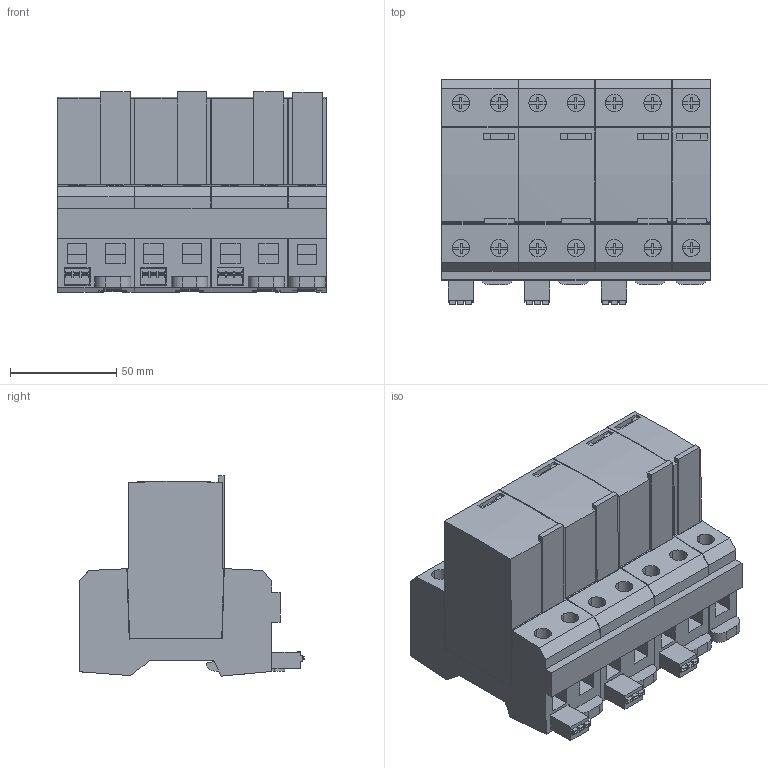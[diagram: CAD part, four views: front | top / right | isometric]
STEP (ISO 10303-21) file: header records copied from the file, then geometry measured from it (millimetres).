
FILE_DESCRIPTION((''),'2;1');
FILE_NAME('1695285024653_ASM','2023-09-21T14:00:46',('SESA730405'),('Schneider-Electric'),'CREO PARAMETRIC BY PTC INC, 2021284','CREO PARAMETRIC BY PTC INC, 2021284','');
FILE_SCHEMA(('AP242_MANAGED_MODEL_BASED_3D_ENGINEERING_MIM_LF { 1 0 10303 442 1 1 4 }'));
Length unit declared in the file: millimetre
Products named in the file (5): EMPTYNODE_1695285024701_ASM; PKR5694801-3D; MOUNTING_CLIP_2-3D; PKR5694801-3D_ASM; 1695285024653_ASM
Assembly tree (7 placements, depth 3):
  1695285024653_ASM
    EMPTYNODE_1695285024701_ASM
    PKR5694801-3D_ASM
      PKR5694801-3D
      MOUNTING_CLIP_2-3D  x4
Bounding box: 126.3 x 105.63 x 94.01 mm (x, y, z)
Volume: 713065.4 mm3; surface area: 109189.2 mm2
Topology: 5 solids, 5 shells, 992 faces, 2596 edges, 1669 vertices
Faces by surface type: plane 896, cylinder 78, extrusion 12, bspline 6
Entity records: 40102 total; most frequent: CARTESIAN_POINT 5560, ORIENTED_EDGE 4718, DIRECTION 4221, PRESENTATION_STYLE_ASSIGNMENT 2789, STYLED_ITEM 2368, CURVE_STYLE 2359, EDGE_CURVE 2359, VECTOR 2155
